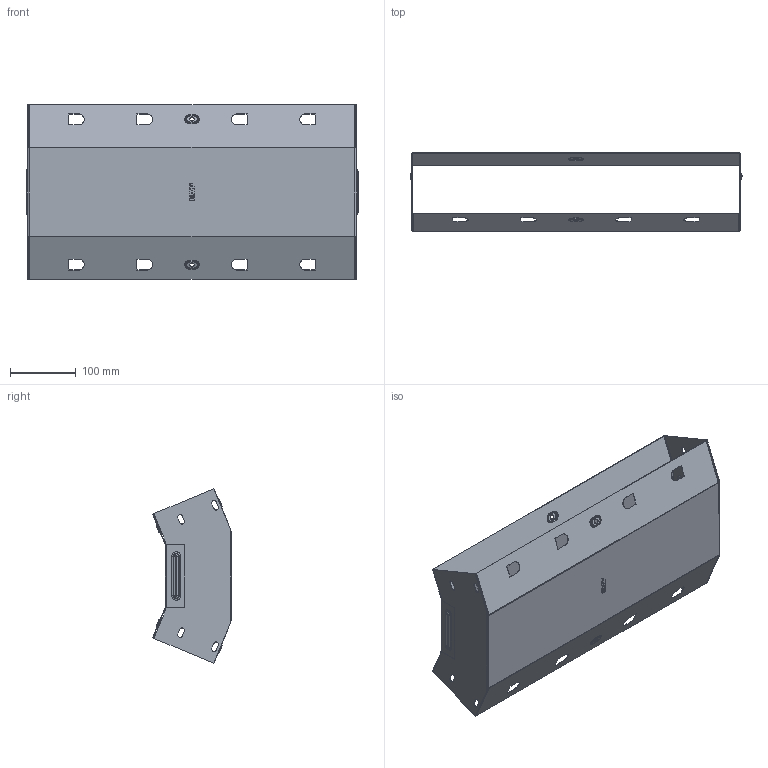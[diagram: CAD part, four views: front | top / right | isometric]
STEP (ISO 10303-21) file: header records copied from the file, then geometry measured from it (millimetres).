
FILE_DESCRIPTION (( 'STEP AP214' ), '1' );
FILE_NAME ('vi45100500_捘.STEP', '2019-06-10T08:29:54', ( '砐錪賧瘔蠈錪 Windows' ), ( '' ), 'SwSTEP 2.0', 'SolidWorks 2018', '' );
FILE_SCHEMA (( 'AUTOMOTIVE_DESIGN' ));
Length unit declared in the file: millimetre
Products named in the file (1): vi45100500_捘
Bounding box: 505.6 x 119.93 x 265.55 mm (x, y, z)
Volume: 226765.8 mm3; surface area: 570799.9 mm2
Topology: 2 solids, 2 shells, 468 faces, 1212 edges, 776 vertices
Faces by surface type: plane 254, cylinder 132, torus 64, bspline 18
Entity records: 15224 total; most frequent: CARTESIAN_POINT 3476, DIRECTION 2438, ORIENTED_EDGE 2424, EDGE_CURVE 1212, LINE 816, VECTOR 816, AXIS2_PLACEMENT_3D 811, VERTEX_POINT 776
